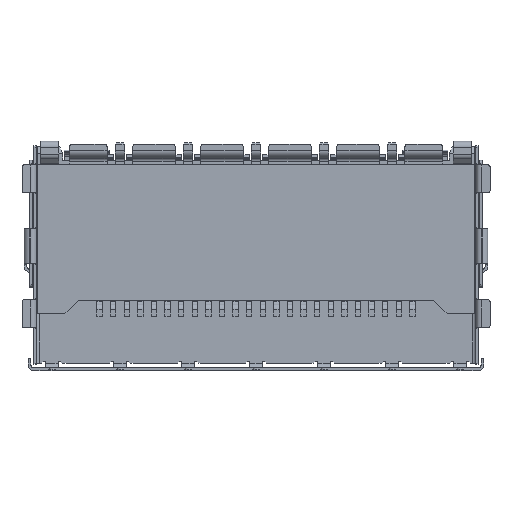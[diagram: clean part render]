
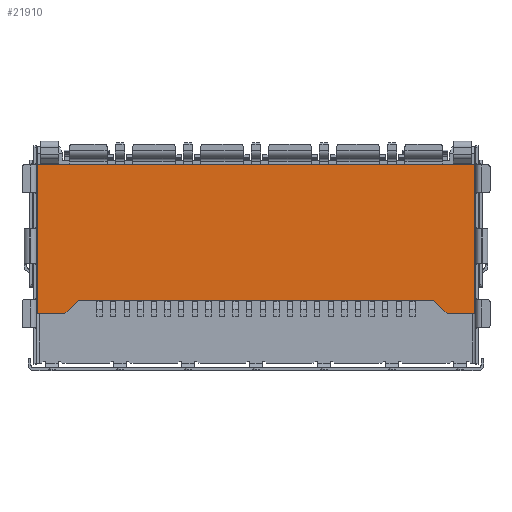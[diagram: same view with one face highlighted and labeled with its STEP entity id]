
A CAD part, front view. The second image highlights one B-rep face of the part: STEP entity #21910.
In plain terms, the highlighted planar face has unit normal (0, -1, 0).
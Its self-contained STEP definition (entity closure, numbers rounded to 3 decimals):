
#1061 = CARTESIAN_POINT ( 'NONE',  ( -6.54, 0.04, 0.58 ) ) ;
#1389 = FACE_OUTER_BOUND ( 'NONE', #35903, .T. ) ;
#1408 = VERTEX_POINT ( 'NONE', #42575 ) ;
#2007 = DIRECTION ( 'NONE',  ( -0.707, 0., 0.707 ) ) ;
#4117 = LINE ( 'NONE', #16631, #27466 ) ;
#4577 = CARTESIAN_POINT ( 'NONE',  ( 8.02, 0.04, 0.1 ) ) ;
#6426 = VERTEX_POINT ( 'NONE', #34216 ) ;
#6467 = VECTOR ( 'NONE', #2007, 1000. ) ;
#6592 = DIRECTION ( 'NONE',  ( -1., 0., 0. ) ) ;
#6597 = EDGE_CURVE ( 'NONE', #37130, #1408, #14572, .T. ) ;
#6948 = CARTESIAN_POINT ( 'NONE',  ( 8.02, 0.04, 5.58 ) ) ;
#7971 = DIRECTION ( 'NONE',  ( 0., 0., -1. ) ) ;
#8657 = CARTESIAN_POINT ( 'NONE',  ( -6.54, 0.04, 0.58 ) ) ;
#10045 = DIRECTION ( 'NONE',  ( -1., 0., 0. ) ) ;
#11842 = ORIENTED_EDGE ( 'NONE', *, *, #20452, .T. ) ;
#13166 = VERTEX_POINT ( 'NONE', #40575 ) ;
#13793 = VERTEX_POINT ( 'NONE', #23688 ) ;
#13899 = CARTESIAN_POINT ( 'NONE',  ( 8.02, 0.04, 0.58 ) ) ;
#14572 = LINE ( 'NONE', #31555, #23057 ) ;
#14897 = CARTESIAN_POINT ( 'NONE',  ( 6.54, 0.04, 0.58 ) ) ;
#15959 = VERTEX_POINT ( 'NONE', #28632 ) ;
#16631 = CARTESIAN_POINT ( 'NONE',  ( 8.02, 0.04, 0.58 ) ) ;
#16883 = EDGE_CURVE ( 'NONE', #18326, #13793, #20913, .T. ) ;
#17700 = CARTESIAN_POINT ( 'NONE',  ( -7.02, 0.04, 0.1 ) ) ;
#18326 = VERTEX_POINT ( 'NONE', #33789 ) ;
#18510 = ORIENTED_EDGE ( 'NONE', *, *, #6597, .T. ) ;
#18588 = CARTESIAN_POINT ( 'NONE',  ( -8.02, 0.04, 5.58 ) ) ;
#19667 = VERTEX_POINT ( 'NONE', #8657 ) ;
#20452 = EDGE_CURVE ( 'NONE', #6426, #19667, #37674, .T. ) ;
#20465 = VECTOR ( 'NONE', #10045, 1000. ) ;
#20913 = LINE ( 'NONE', #27181, #28387 ) ;
#21264 = EDGE_CURVE ( 'NONE', #13166, #19667, #4117, .T. ) ;
#21789 = EDGE_CURVE ( 'NONE', #15959, #37130, #35397, .T. ) ;
#21910 = ADVANCED_FACE ( 'NONE', ( #1389 ), #30847, .F. ) ;
#23057 = VECTOR ( 'NONE', #25286, 1000. ) ;
#23134 = ORIENTED_EDGE ( 'NONE', *, *, #38764, .F. ) ;
#23688 = CARTESIAN_POINT ( 'NONE',  ( 7.02, 0.04, 0.1 ) ) ;
#23742 = EDGE_CURVE ( 'NONE', #1408, #6426, #29912, .T. ) ;
#24442 = ORIENTED_EDGE ( 'NONE', *, *, #28898, .F. ) ;
#25286 = DIRECTION ( 'NONE',  ( 0., 0., -1. ) ) ;
#27181 = CARTESIAN_POINT ( 'NONE',  ( 7.02, 0.04, 0.1 ) ) ;
#27466 = VECTOR ( 'NONE', #37181, 1000. ) ;
#28227 = VECTOR ( 'NONE', #7971, 1000. ) ;
#28387 = VECTOR ( 'NONE', #6592, 1000. ) ;
#28632 = CARTESIAN_POINT ( 'NONE',  ( 8.02, 0.04, 5.58 ) ) ;
#28898 = EDGE_CURVE ( 'NONE', #15959, #18326, #42071, .T. ) ;
#29862 = LINE ( 'NONE', #14897, #6467 ) ;
#29912 = LINE ( 'NONE', #17700, #34161 ) ;
#30305 = ORIENTED_EDGE ( 'NONE', *, *, #21789, .T. ) ;
#30625 = ORIENTED_EDGE ( 'NONE', *, *, #23742, .T. ) ;
#30847 = PLANE ( 'NONE',  #40221 ) ;
#31555 = CARTESIAN_POINT ( 'NONE',  ( -8.02, 0.04, 0.1 ) ) ;
#33380 = VECTOR ( 'NONE', #38799, 1000. ) ;
#33789 = CARTESIAN_POINT ( 'NONE',  ( 8.02, 0.04, 0.1 ) ) ;
#34161 = VECTOR ( 'NONE', #38394, 1000. ) ;
#34216 = CARTESIAN_POINT ( 'NONE',  ( -7.02, 0.04, 0.1 ) ) ;
#35261 = ORIENTED_EDGE ( 'NONE', *, *, #16883, .F. ) ;
#35397 = LINE ( 'NONE', #6948, #20465 ) ;
#35903 = EDGE_LOOP ( 'NONE', ( #30305, #18510, #30625, #11842, #40197, #23134, #35261, #24442 ) ) ;
#37130 = VERTEX_POINT ( 'NONE', #18588 ) ;
#37181 = DIRECTION ( 'NONE',  ( -1., 0., 0. ) ) ;
#37674 = LINE ( 'NONE', #1061, #33380 ) ;
#37715 = DIRECTION ( 'NONE',  ( 0., 1., 0. ) ) ;
#38394 = DIRECTION ( 'NONE',  ( 1., 0., 0. ) ) ;
#38764 = EDGE_CURVE ( 'NONE', #13793, #13166, #29862, .T. ) ;
#38799 = DIRECTION ( 'NONE',  ( 0.707, 0., 0.707 ) ) ;
#40197 = ORIENTED_EDGE ( 'NONE', *, *, #21264, .F. ) ;
#40221 = AXIS2_PLACEMENT_3D ( 'NONE', #13899, #37715, #41118 ) ;
#40575 = CARTESIAN_POINT ( 'NONE',  ( 6.54, 0.04, 0.58 ) ) ;
#41118 = DIRECTION ( 'NONE',  ( 0., 0., 1. ) ) ;
#42071 = LINE ( 'NONE', #4577, #28227 ) ;
#42575 = CARTESIAN_POINT ( 'NONE',  ( -8.02, 0.04, 0.1 ) ) ;
